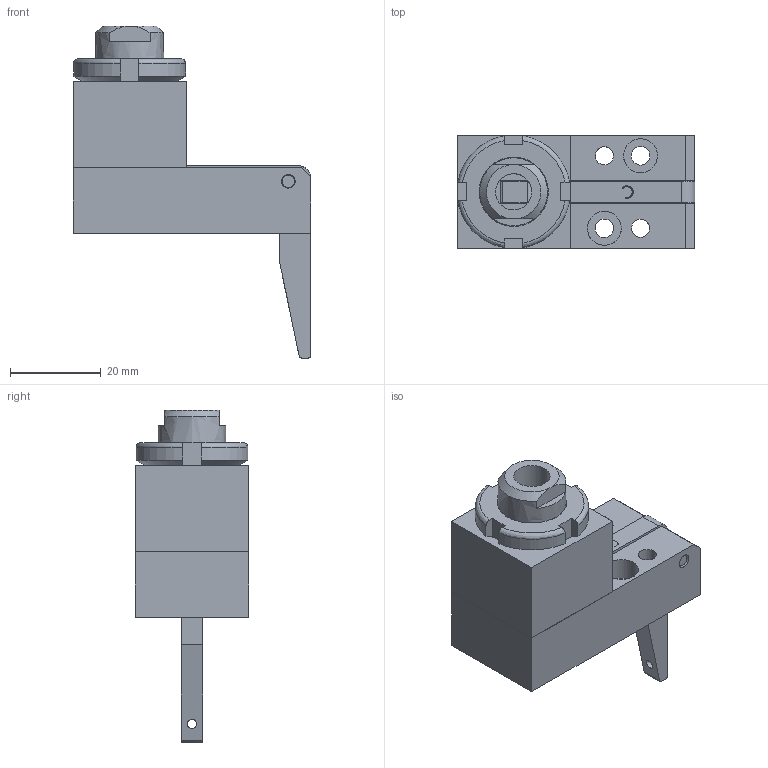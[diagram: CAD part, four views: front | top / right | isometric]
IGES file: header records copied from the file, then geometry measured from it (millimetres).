
Global section: file name: 189_00; native system: Autodesk Inventor 2016; preprocessor: unknown; author: AP; date: 20160830.091713; units: millimetre
Bounding box: 52.5 x 25 x 73.25 mm (x, y, z)
Volume: 30278.9 mm3; surface area: 18449.9 mm2
Topology: 11 solids, 11 shells, 196 faces, 543 edges, 378 vertices
Faces by surface type: bspline 196
